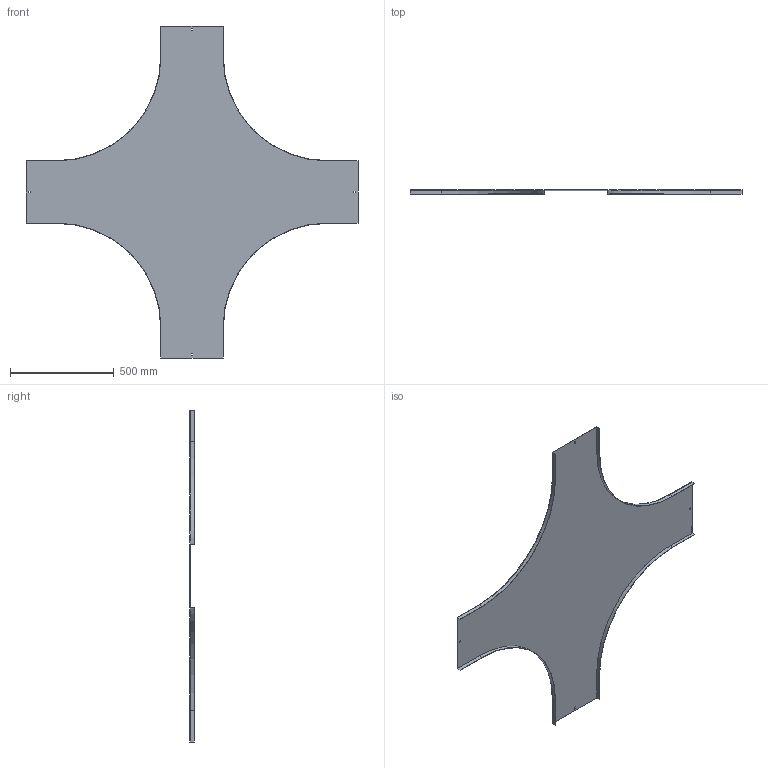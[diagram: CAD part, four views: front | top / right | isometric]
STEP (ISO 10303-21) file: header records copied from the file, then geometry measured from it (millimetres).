
FILE_DESCRIPTION (( 'STEP AP214' ), '1' );
FILE_NAME ('17N5R300.step', '2025-02-21T14:39:13', ( '' ), ( '' ), 'SwSTEP 2.0', 'SolidWorks 2023', '' );
FILE_SCHEMA (( 'AUTOMOTIVE_DESIGN' ));
Length unit declared in the file: millimetre
Products named in the file (1): 17N5R300
Bounding box: 1600 x 20 x 1600 mm (x, y, z)
Volume: 1756658.2 mm3; surface area: 2350935.1 mm2
Topology: 1 solids, 1 shells, 50 faces, 144 edges, 96 vertices
Faces by surface type: plane 42, cylinder 8
Entity records: 1663 total; most frequent: CARTESIAN_POINT 291, ORIENTED_EDGE 288, DIRECTION 262, EDGE_CURVE 144, LINE 128, VECTOR 128, VERTEX_POINT 96, AXIS2_PLACEMENT_3D 67
